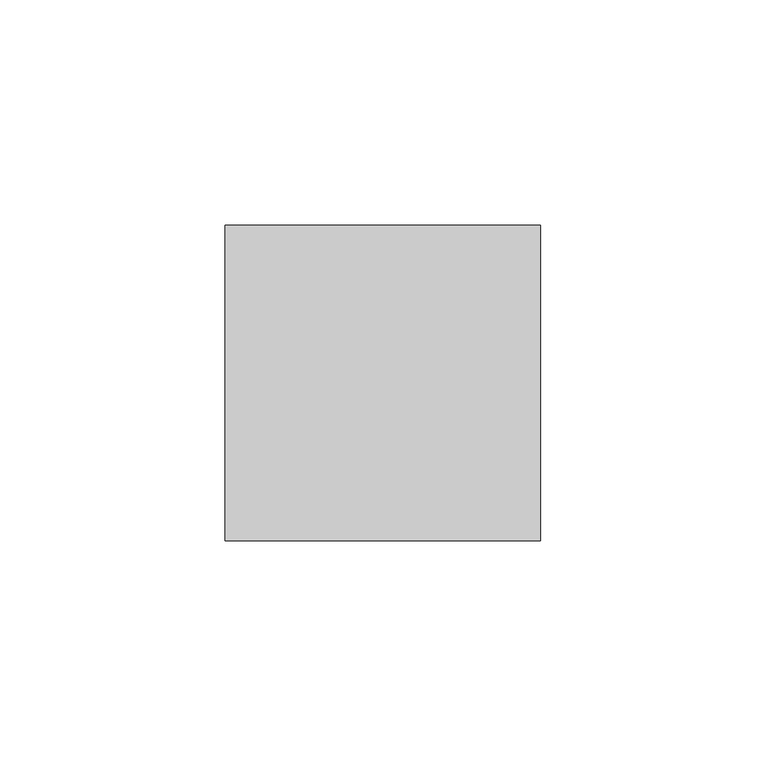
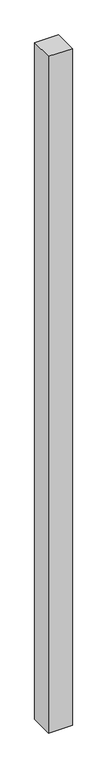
"""IFC4 building model written with IfcOpenShell, lengths in millimetres: member geometry, 長方形マリオン : 70*70."""

from ifc_helpers import new_model, si_unit, frame, origin, place, context, project, spatial, polyline, outline, extrude, source, transform, mapped, element, save


def member_b4131282(model_context):
    return source(origin(), model_context, "Body", "SweptSolid", [
        extrude(outline(polyline([(0.0, 35.0), (0.0, -35.0), (-70.0, -35.0), (-70.0, 35.0), (0.0, 35.0)])), frame((0.0, 0.0, -2100.0), z_axis=(0.0, 0.0, 1.0), x_axis=(1.0, 0.0, 0.0)), (0.0, 0.0, 1.0), 2100.0),
    ])


if __name__ == "__main__":
    model = new_model("IFC4")
    model_context = context("Model", 3, world=origin())
    ifc_project = project(units=[si_unit("LENGTHUNIT", "METRE", prefix="MILLI")], contexts=[model_context])
    site = spatial("IfcSite", under=ifc_project)
    building = spatial("IfcBuilding", under=site)
    placement = place(None, origin())
    member_shape = member_b4131282(model_context)
    element("IfcMember", 1, ObjectType="長方形マリオン : 70*70", at=placement, inside=building, context=model_context, shape_type="MappedRepresentation", body=[
        mapped(member_shape, transform((0.0, 0.0, 0.0), x_axis=(1.0, 0.0, 0.0), y_axis=(0.0, 1.0, 0.0), z_axis=(0.0, 0.0, 1.0))),
    ])
    save(model, "model.ifc")
